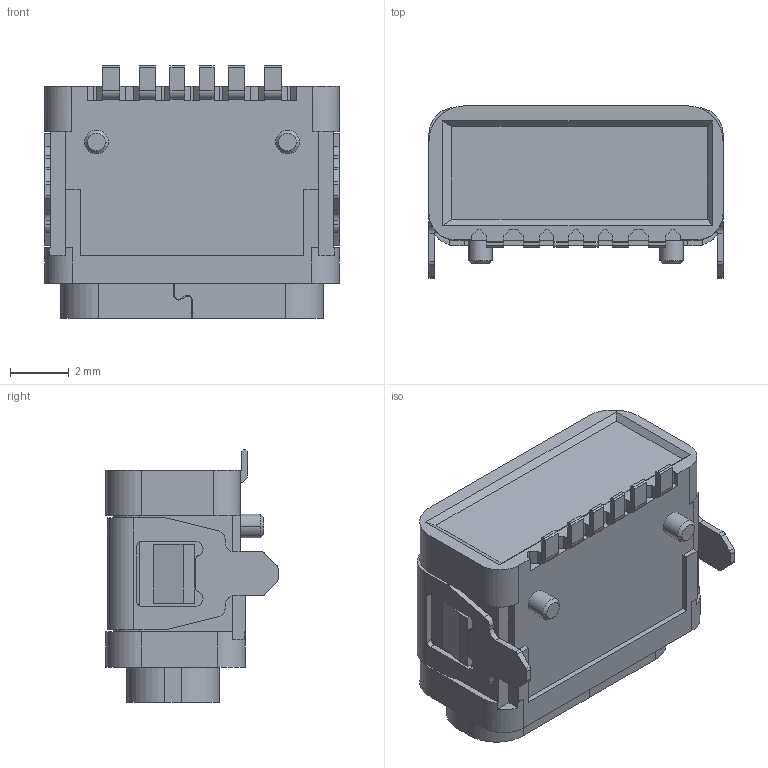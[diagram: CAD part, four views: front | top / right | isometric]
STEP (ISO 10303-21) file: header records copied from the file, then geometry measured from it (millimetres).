
FILE_DESCRIPTION((''),'2;1');
FILE_NAME('1020028','2023-04-01T11:08:16',('Administrator'),(''),'CREO PARAMETRIC BY PTC INC, 2019080','CREO PARAMETRIC BY PTC INC, 2019080','');
FILE_SCHEMA(('CONFIG_CONTROL_DESIGN'));
Length unit declared in the file: millimetre
Products named in the file (1): 1020028
Bounding box: 10 x 5.85 x 8.6 mm (x, y, z)
Volume: 249.2 mm3; surface area: 621.6 mm2
Topology: 1 solids, 1 shells, 840 faces, 2356 edges, 1548 vertices
Faces by surface type: plane 672, cylinder 152, cone 16
Entity records: 26822 total; most frequent: CARTESIAN_POINT 4778, ORIENTED_EDGE 4712, DIRECTION 4366, EDGE_CURVE 2356, VECTOR 2010, LINE 2010, VERTEX_POINT 1548, AXIS2_PLACEMENT_3D 1178
